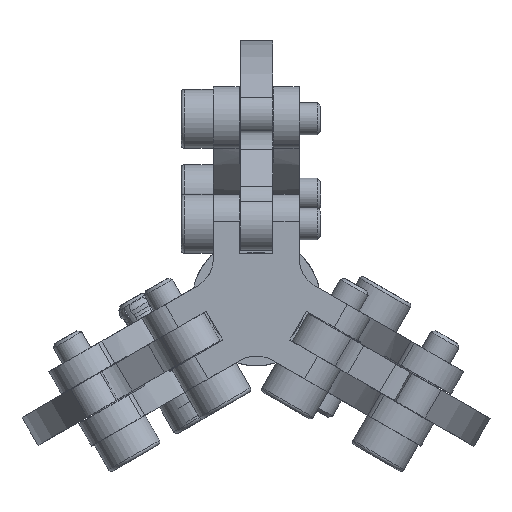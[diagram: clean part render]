
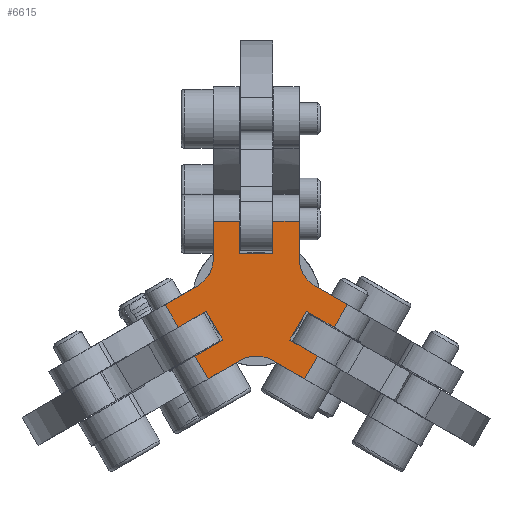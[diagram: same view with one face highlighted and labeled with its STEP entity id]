
A CAD part, front view. The second image highlights one B-rep face of the part: STEP entity #6615.
In plain terms, the highlighted planar face has unit normal (0, -1, 0).
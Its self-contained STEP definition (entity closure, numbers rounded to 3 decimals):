
#1156=PLANE('',#7237);
#1374=FACE_OUTER_BOUND('',#1709,.T.);
#1709=EDGE_LOOP('',(#5458,#5459,#5460,#5461,#5462,#5463,#5464,#5465,#5466,
#5467,#5468,#5469,#5470,#5471,#5472,#5473,#5474,#5475,#5476,#5477,#5478,
#5479,#5480,#5481));
#2005=CIRCLE('',#7187,3.);
#2010=CIRCLE('',#7194,3.);
#2015=CIRCLE('',#7201,3.);
#2445=LINE('',#11241,#2822);
#2449=LINE('',#11273,#2826);
#2453=LINE('',#11305,#2830);
#2469=LINE('',#11431,#2846);
#2470=LINE('',#11437,#2847);
#2471=LINE('',#11441,#2848);
#2472=LINE('',#11445,#2849);
#2473=LINE('',#11451,#2850);
#2474=LINE('',#11454,#2851);
#2475=LINE('',#11456,#2852);
#2476=LINE('',#11458,#2853);
#2477=LINE('',#11459,#2854);
#2478=LINE('',#11461,#2855);
#2479=LINE('',#11463,#2856);
#2480=LINE('',#11465,#2857);
#2481=LINE('',#11467,#2858);
#2482=LINE('',#11469,#2859);
#2483=LINE('',#11470,#2860);
#2484=LINE('',#11471,#2861);
#2485=LINE('',#11473,#2862);
#2486=LINE('',#11474,#2863);
#2822=VECTOR('',#8426,10.);
#2826=VECTOR('',#8444,10.);
#2830=VECTOR('',#8462,10.);
#2846=VECTOR('',#8524,10.);
#2847=VECTOR('',#8531,10.);
#2848=VECTOR('',#8536,10.);
#2849=VECTOR('',#8541,10.);
#2850=VECTOR('',#8548,10.);
#2851=VECTOR('',#8551,10.);
#2852=VECTOR('',#8552,10.);
#2853=VECTOR('',#8553,10.);
#2854=VECTOR('',#8554,10.);
#2855=VECTOR('',#8555,10.);
#2856=VECTOR('',#8556,10.);
#2857=VECTOR('',#8557,10.);
#2858=VECTOR('',#8558,10.);
#2859=VECTOR('',#8559,10.);
#2860=VECTOR('',#8560,10.);
#2861=VECTOR('',#8561,10.);
#2862=VECTOR('',#8562,10.);
#2863=VECTOR('',#8563,10.);
#3418=VERTEX_POINT('',#11219);
#3419=VERTEX_POINT('',#11221);
#3422=VERTEX_POINT('',#11240);
#3427=VERTEX_POINT('',#11251);
#3428=VERTEX_POINT('',#11253);
#3431=VERTEX_POINT('',#11272);
#3436=VERTEX_POINT('',#11283);
#3437=VERTEX_POINT('',#11285);
#3440=VERTEX_POINT('',#11304);
#3466=VERTEX_POINT('',#11427);
#3467=VERTEX_POINT('',#11429);
#3469=VERTEX_POINT('',#11435);
#3470=VERTEX_POINT('',#11439);
#3471=VERTEX_POINT('',#11443);
#3473=VERTEX_POINT('',#11449);
#3474=VERTEX_POINT('',#11453);
#3475=VERTEX_POINT('',#11455);
#3476=VERTEX_POINT('',#11457);
#3477=VERTEX_POINT('',#11460);
#3478=VERTEX_POINT('',#11462);
#3479=VERTEX_POINT('',#11464);
#3480=VERTEX_POINT('',#11466);
#3481=VERTEX_POINT('',#11468);
#3482=VERTEX_POINT('',#11472);
#4116=EDGE_CURVE('',#3418,#3419,#2005,.T.);
#4120=EDGE_CURVE('',#3419,#3422,#2445,.T.);
#4126=EDGE_CURVE('',#3427,#3428,#2010,.T.);
#4130=EDGE_CURVE('',#3428,#3431,#2449,.T.);
#4136=EDGE_CURVE('',#3436,#3437,#2015,.T.);
#4140=EDGE_CURVE('',#3437,#3440,#2453,.T.);
#4181=EDGE_CURVE('',#3466,#3467,#2469,.T.);
#4184=EDGE_CURVE('',#3466,#3469,#2470,.T.);
#4186=EDGE_CURVE('',#3440,#3470,#2471,.T.);
#4188=EDGE_CURVE('',#3471,#3436,#2472,.T.);
#4191=EDGE_CURVE('',#3473,#3471,#2473,.T.);
#4192=EDGE_CURVE('',#3473,#3474,#2474,.T.);
#4193=EDGE_CURVE('',#3474,#3475,#2475,.T.);
#4194=EDGE_CURVE('',#3475,#3476,#2476,.T.);
#4195=EDGE_CURVE('',#3422,#3476,#2477,.T.);
#4196=EDGE_CURVE('',#3477,#3418,#2478,.T.);
#4197=EDGE_CURVE('',#3478,#3477,#2479,.T.);
#4198=EDGE_CURVE('',#3478,#3479,#2480,.T.);
#4199=EDGE_CURVE('',#3479,#3480,#2481,.T.);
#4200=EDGE_CURVE('',#3480,#3481,#2482,.T.);
#4201=EDGE_CURVE('',#3431,#3481,#2483,.T.);
#4202=EDGE_CURVE('',#3469,#3427,#2484,.T.);
#4203=EDGE_CURVE('',#3467,#3482,#2485,.T.);
#4204=EDGE_CURVE('',#3482,#3470,#2486,.T.);
#5458=ORIENTED_EDGE('',*,*,#4186,.F.);
#5459=ORIENTED_EDGE('',*,*,#4140,.F.);
#5460=ORIENTED_EDGE('',*,*,#4136,.F.);
#5461=ORIENTED_EDGE('',*,*,#4188,.F.);
#5462=ORIENTED_EDGE('',*,*,#4191,.F.);
#5463=ORIENTED_EDGE('',*,*,#4192,.T.);
#5464=ORIENTED_EDGE('',*,*,#4193,.T.);
#5465=ORIENTED_EDGE('',*,*,#4194,.T.);
#5466=ORIENTED_EDGE('',*,*,#4195,.F.);
#5467=ORIENTED_EDGE('',*,*,#4120,.F.);
#5468=ORIENTED_EDGE('',*,*,#4116,.F.);
#5469=ORIENTED_EDGE('',*,*,#4196,.F.);
#5470=ORIENTED_EDGE('',*,*,#4197,.F.);
#5471=ORIENTED_EDGE('',*,*,#4198,.T.);
#5472=ORIENTED_EDGE('',*,*,#4199,.T.);
#5473=ORIENTED_EDGE('',*,*,#4200,.T.);
#5474=ORIENTED_EDGE('',*,*,#4201,.F.);
#5475=ORIENTED_EDGE('',*,*,#4130,.F.);
#5476=ORIENTED_EDGE('',*,*,#4126,.F.);
#5477=ORIENTED_EDGE('',*,*,#4202,.F.);
#5478=ORIENTED_EDGE('',*,*,#4184,.F.);
#5479=ORIENTED_EDGE('',*,*,#4181,.T.);
#5480=ORIENTED_EDGE('',*,*,#4203,.T.);
#5481=ORIENTED_EDGE('',*,*,#4204,.T.);
#6615=ADVANCED_FACE('',(#1374),#1156,.F.);
#7187=AXIS2_PLACEMENT_3D('',#11222,#8419,#8420);
#7194=AXIS2_PLACEMENT_3D('',#11254,#8437,#8438);
#7201=AXIS2_PLACEMENT_3D('',#11286,#8455,#8456);
#7237=AXIS2_PLACEMENT_3D('',#11452,#8549,#8550);
#8419=DIRECTION('center_axis',(0.,-1.,0.));
#8420=DIRECTION('ref_axis',(0.5,0.,-0.866));
#8426=DIRECTION('',(0.5,0.,0.866));
#8437=DIRECTION('center_axis',(0.,-1.,0.));
#8438=DIRECTION('ref_axis',(0.5,0.,0.866));
#8444=DIRECTION('',(-1.,0.,0.));
#8455=DIRECTION('center_axis',(0.,-1.,0.));
#8456=DIRECTION('ref_axis',(-1.,0.,0.));
#8462=DIRECTION('',(0.5,0.,-0.866));
#8524=DIRECTION('',(-0.5,0.,0.866));
#8531=DIRECTION('',(-0.866,0.,-0.5));
#8536=DIRECTION('',(-0.866,0.,-0.5));
#8541=DIRECTION('',(-0.5,0.,-0.866));
#8548=DIRECTION('',(0.866,0.,-0.5));
#8549=DIRECTION('center_axis',(0.,1.,0.));
#8550=DIRECTION('ref_axis',(0.,0.,1.));
#8551=DIRECTION('',(-0.5,0.,-0.866));
#8552=DIRECTION('',(-0.866,0.,0.5));
#8553=DIRECTION('',(0.5,0.,0.866));
#8554=DIRECTION('',(0.866,0.,-0.5));
#8555=DIRECTION('',(1.,0.,0.));
#8556=DIRECTION('',(0.,0.,1.));
#8557=DIRECTION('',(1.,0.,0.));
#8558=DIRECTION('',(0.,0.,-1.));
#8559=DIRECTION('',(-1.,0.,0.));
#8560=DIRECTION('',(0.,0.,1.));
#8561=DIRECTION('',(-0.5,0.,0.866));
#8562=DIRECTION('',(0.866,0.,0.5));
#8563=DIRECTION('',(0.5,0.,-0.866));
#11219=CARTESIAN_POINT('',(-4.041,0.,4.));
#11221=CARTESIAN_POINT('',(-1.443,0.,5.5));
#11222=CARTESIAN_POINT('Origin',(-4.041,0.,7.));
#11240=CARTESIAN_POINT('',(0.286,0.,8.495));
#11241=CARTESIAN_POINT('',(-3.464,0.,2.));
#11251=CARTESIAN_POINT('',(-1.443,0.,-5.5));
#11253=CARTESIAN_POINT('',(-4.041,0.,-4.));
#11254=CARTESIAN_POINT('Origin',(-4.041,0.,-7.));
#11272=CARTESIAN_POINT('',(-7.5,0.,-4.));
#11273=CARTESIAN_POINT('',(0.,0.,-4.));
#11283=CARTESIAN_POINT('',(5.485,0.,1.5));
#11285=CARTESIAN_POINT('',(5.485,0.,-1.5));
#11286=CARTESIAN_POINT('Origin',(8.083,0.,0.));
#11304=CARTESIAN_POINT('',(7.214,0.,-4.495));
#11305=CARTESIAN_POINT('',(3.464,0.,2.));
#11427=CARTESIAN_POINT('',(2.408,0.,-7.27));
#11429=CARTESIAN_POINT('',(0.908,0.,-4.672));
#11431=CARTESIAN_POINT('',(-0.313,0.,-2.557));
#11435=CARTESIAN_POINT('',(0.286,0.,-8.495));
#11437=CARTESIAN_POINT('',(5.194,0.,-5.661));
#11439=CARTESIAN_POINT('',(5.092,0.,-5.72));
#11441=CARTESIAN_POINT('',(5.194,0.,-5.661));
#11443=CARTESIAN_POINT('',(7.214,0.,4.495));
#11445=CARTESIAN_POINT('',(8.464,0.,6.66));
#11449=CARTESIAN_POINT('',(5.092,0.,5.72));
#11451=CARTESIAN_POINT('',(1.73,0.,7.661));
#11452=CARTESIAN_POINT('Origin',(-0.768,0.,0.));
#11453=CARTESIAN_POINT('',(3.592,0.,3.122));
#11454=CARTESIAN_POINT('',(2.371,0.,1.007));
#11455=CARTESIAN_POINT('',(0.908,0.,4.672));
#11456=CARTESIAN_POINT('',(1.291,0.,4.451));
#11457=CARTESIAN_POINT('',(2.408,0.,7.27));
#11458=CARTESIAN_POINT('',(1.062,0.,4.939));
#11459=CARTESIAN_POINT('',(1.73,0.,7.661));
#11460=CARTESIAN_POINT('',(-7.5,0.,4.));
#11461=CARTESIAN_POINT('',(-10.,0.,4.));
#11462=CARTESIAN_POINT('',(-7.5,0.,1.55));
#11463=CARTESIAN_POINT('',(-7.5,0.,-2.));
#11464=CARTESIAN_POINT('',(-4.5,0.,1.55));
#11465=CARTESIAN_POINT('',(-2.634,0.,1.55));
#11466=CARTESIAN_POINT('',(-4.5,0.,-1.55));
#11467=CARTESIAN_POINT('',(-4.5,0.,-0.775));
#11468=CARTESIAN_POINT('',(-7.5,0.,-1.55));
#11469=CARTESIAN_POINT('',(-5.384,0.,-1.55));
#11470=CARTESIAN_POINT('',(-7.5,0.,-2.));
#11471=CARTESIAN_POINT('',(1.536,0.,-10.66));
#11472=CARTESIAN_POINT('',(3.592,0.,-3.122));
#11473=CARTESIAN_POINT('',(2.633,0.,-3.676));
#11474=CARTESIAN_POINT('',(3.746,0.,-3.389));
